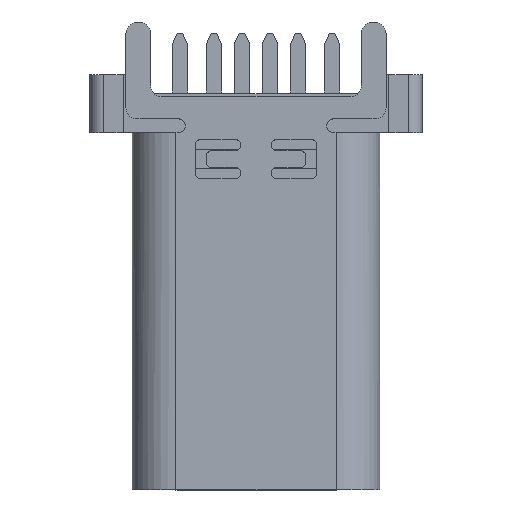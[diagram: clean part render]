
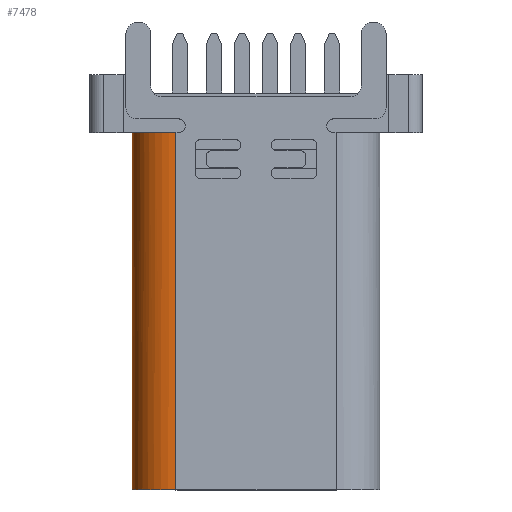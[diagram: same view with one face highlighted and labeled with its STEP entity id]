
A CAD part, top view. The second image highlights one B-rep face of the part: STEP entity #7478.
In plain terms, the highlighted cylindrical face has radius 1.58 mm (diameter 3.16 mm), a partial arc.
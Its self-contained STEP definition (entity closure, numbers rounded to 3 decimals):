
#77 = CYLINDRICAL_SURFACE ( 'NONE', #10152, 1.58 ) ;
#287 = VERTEX_POINT ( 'NONE', #8038 ) ;
#348 = FACE_OUTER_BOUND ( 'NONE', #10389, .T. ) ;
#361 = CIRCLE ( 'NONE', #2161, 1.58 ) ;
#408 = EDGE_CURVE ( 'NONE', #9806, #2378, #2479, .T. ) ;
#502 = DIRECTION ( 'NONE',  ( -1., 0., 0. ) ) ;
#940 = AXIS2_PLACEMENT_3D ( 'NONE', #2702, #2622, #4296 ) ;
#1322 = EDGE_CURVE ( 'NONE', #3536, #287, #7654, .T. ) ;
#1577 = ORIENTED_EDGE ( 'NONE', *, *, #4378, .F. ) ;
#2161 = AXIS2_PLACEMENT_3D ( 'NONE', #10028, #10996, #502 ) ;
#2338 = CARTESIAN_POINT ( 'NONE',  ( -4.47, 11.1, -0.32 ) ) ;
#2341 = DIRECTION ( 'NONE',  ( 0., -1., 0. ) ) ;
#2378 = VERTEX_POINT ( 'NONE', #2632 ) ;
#2479 = CIRCLE ( 'NONE', #5294, 1.58 ) ;
#2622 = DIRECTION ( 'NONE',  ( 0., -1., 0. ) ) ;
#2632 = CARTESIAN_POINT ( 'NONE',  ( -4.47, 11.1, -0.32 ) ) ;
#2702 = CARTESIAN_POINT ( 'NONE',  ( -2.89, 11.1, -0.32 ) ) ;
#3536 = VERTEX_POINT ( 'NONE', #6911 ) ;
#3540 = ORIENTED_EDGE ( 'NONE', *, *, #5550, .T. ) ;
#4012 = DIRECTION ( 'NONE',  ( -1., 0., 0. ) ) ;
#4124 = CARTESIAN_POINT ( 'NONE',  ( -2.89, 11.1, -0.32 ) ) ;
#4125 = ORIENTED_EDGE ( 'NONE', *, *, #1322, .F. ) ;
#4296 = DIRECTION ( 'NONE',  ( -1., 0., 0. ) ) ;
#4378 = EDGE_CURVE ( 'NONE', #287, #8599, #361, .T. ) ;
#4942 = CARTESIAN_POINT ( 'NONE',  ( -2.89, 11.1, -0.32 ) ) ;
#5294 = AXIS2_PLACEMENT_3D ( 'NONE', #4124, #6805, #9446 ) ;
#5550 = EDGE_CURVE ( 'NONE', #3536, #9806, #8715, .T. ) ;
#5847 = EDGE_CURVE ( 'NONE', #2378, #8599, #9931, .T. ) ;
#5880 = CARTESIAN_POINT ( 'NONE',  ( -2.89, 11.1, 1.26 ) ) ;
#6442 = CARTESIAN_POINT ( 'NONE',  ( -3.856, 11.1, 0.93 ) ) ;
#6805 = DIRECTION ( 'NONE',  ( 0., -1., 0. ) ) ;
#6809 = ORIENTED_EDGE ( 'NONE', *, *, #5847, .T. ) ;
#6911 = CARTESIAN_POINT ( 'NONE',  ( -2.89, 11.1, 1.26 ) ) ;
#7478 = ADVANCED_FACE ( 'NONE', ( #348 ), #77, .T. ) ;
#7541 = DIRECTION ( 'NONE',  ( 0., -1., 0. ) ) ;
#7654 = LINE ( 'NONE', #5880, #10396 ) ;
#8038 = CARTESIAN_POINT ( 'NONE',  ( -2.89, -1.8, 1.26 ) ) ;
#8168 = VECTOR ( 'NONE', #7541, 1000. ) ;
#8216 = ORIENTED_EDGE ( 'NONE', *, *, #408, .T. ) ;
#8599 = VERTEX_POINT ( 'NONE', #9872 ) ;
#8715 = CIRCLE ( 'NONE', #940, 1.58 ) ;
#9446 = DIRECTION ( 'NONE',  ( -1., 0., 0. ) ) ;
#9806 = VERTEX_POINT ( 'NONE', #6442 ) ;
#9872 = CARTESIAN_POINT ( 'NONE',  ( -4.47, -1.8, -0.32 ) ) ;
#9931 = LINE ( 'NONE', #2338, #8168 ) ;
#10028 = CARTESIAN_POINT ( 'NONE',  ( -2.89, -1.8, -0.32 ) ) ;
#10152 = AXIS2_PLACEMENT_3D ( 'NONE', #4942, #2341, #4012 ) ;
#10314 = DIRECTION ( 'NONE',  ( 0., -1., 0. ) ) ;
#10389 = EDGE_LOOP ( 'NONE', ( #8216, #6809, #1577, #4125, #3540 ) ) ;
#10396 = VECTOR ( 'NONE', #10314, 1000. ) ;
#10996 = DIRECTION ( 'NONE',  ( 0., -1., 0. ) ) ;
